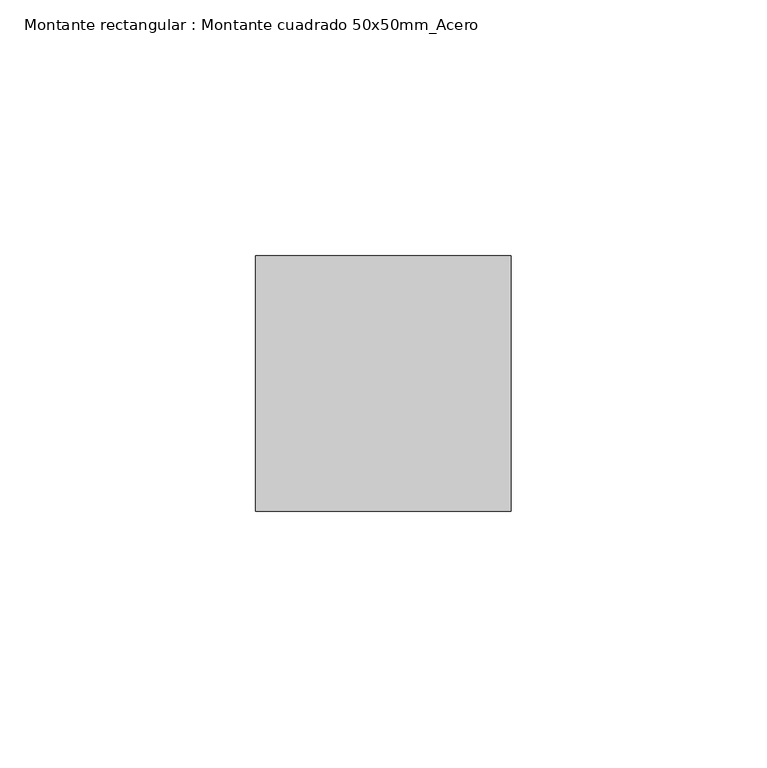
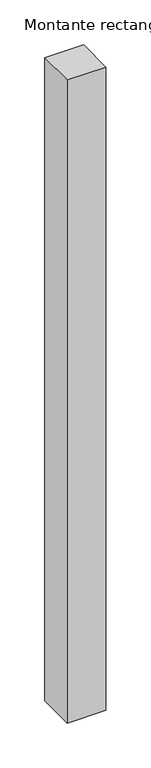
"""IFC4 building model written with IfcOpenShell, lengths in millimetres: member geometry, Montante rectangular : Montante cuadrado 50x50mm_Acero."""

from ifc_helpers import new_model, si_unit, frame, origin, place, context, project, spatial, polyline, outline, extrude, source, transform, mapped, element, save


def montante_rectangular_montante_cuadrado_50x50mm_acero_ade78676(model_context):
    return source(origin(), model_context, "Body", "SweptSolid", [
        extrude(outline(polyline([(-50.0, 0.0), (0.0, 0.0), (0.0, -50.0), (-50.0, -50.0), (-50.0, 0.0)])), frame((0.0, 0.0, -876.4999994), z_axis=(0.0, 0.0, 1.0), x_axis=(1.0, 0.0, 0.0)), (0.0, 0.0, 1.0), 876.4999994),
    ])


if __name__ == "__main__":
    model = new_model("IFC4")
    model_context = context("Model", 3, world=origin())
    ifc_project = project(units=[si_unit("LENGTHUNIT", "METRE", prefix="MILLI")], contexts=[model_context])
    site = spatial("IfcSite", under=ifc_project)
    building = spatial("IfcBuilding", under=site)
    placement = place(None, origin())
    montante_rectangular_montante_cuadrado_50x50mm_acero_shape = montante_rectangular_montante_cuadrado_50x50mm_acero_ade78676(model_context)
    element("IfcMember", 1, ObjectType="Montante rectangular : Montante cuadrado 50x50mm_Acero", at=placement, inside=building, context=model_context, shape_type="MappedRepresentation", body=[
        mapped(montante_rectangular_montante_cuadrado_50x50mm_acero_shape, transform((0.0, 0.0, 0.0), x_axis=(1.0, 0.0, 0.0), y_axis=(0.0, 1.0, 0.0), z_axis=(0.0, 0.0, 1.0))),
    ])
    save(model, "model.ifc")
